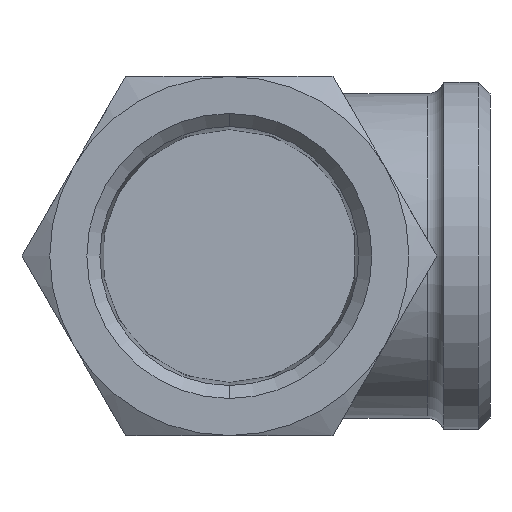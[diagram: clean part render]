
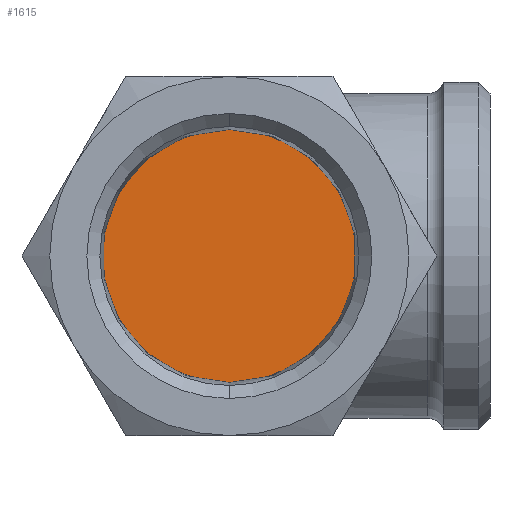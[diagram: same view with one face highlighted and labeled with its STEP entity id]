
A CAD part, left-side view. The second image highlights one B-rep face of the part: STEP entity #1615.
In plain terms, the highlighted planar face has unit normal (-1, 0, 0).
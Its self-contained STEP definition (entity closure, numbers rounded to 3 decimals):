
#13 = CARTESIAN_POINT ( 'NONE',  ( -81., 0., 21.85 ) ) ;
#98 = CARTESIAN_POINT ( 'NONE',  ( -81., 21.85, 0. ) ) ;
#409 = CARTESIAN_POINT ( 'NONE',  ( -81., 0., -21.85 ) ) ;
#563 = DIRECTION ( 'NONE',  ( 0., 0., 1. ) ) ;
#640 = CIRCLE ( 'NONE', #990, 21.85 ) ;
#689 = EDGE_CURVE ( 'NONE', #1437, #730, #747, .T. ) ;
#730 = VERTEX_POINT ( 'NONE', #409 ) ;
#747 = CIRCLE ( 'NONE', #2093, 21.85 ) ;
#846 = DIRECTION ( 'NONE',  ( -1., 0., 0. ) ) ;
#889 = EDGE_LOOP ( 'NONE', ( #1914, #1572 ) ) ;
#990 = AXIS2_PLACEMENT_3D ( 'NONE', #1093, #1457, #563 ) ;
#1031 = PLANE ( 'NONE',  #2110 ) ;
#1093 = CARTESIAN_POINT ( 'NONE',  ( -81., 0., 0. ) ) ;
#1437 = VERTEX_POINT ( 'NONE', #13 ) ;
#1457 = DIRECTION ( 'NONE',  ( -1., 0., 0. ) ) ;
#1509 = CARTESIAN_POINT ( 'NONE',  ( -81., 0., 0. ) ) ;
#1565 = FACE_OUTER_BOUND ( 'NONE', #889, .T. ) ;
#1572 = ORIENTED_EDGE ( 'NONE', *, *, #2335, .T. ) ;
#1615 = ADVANCED_FACE ( 'NONE', ( #1565 ), #1031, .T. ) ;
#1684 = DIRECTION ( 'NONE',  ( 0., 0., 1. ) ) ;
#1696 = DIRECTION ( 'NONE',  ( -1., 0., 0. ) ) ;
#1914 = ORIENTED_EDGE ( 'NONE', *, *, #689, .T. ) ;
#2093 = AXIS2_PLACEMENT_3D ( 'NONE', #1509, #1696, #1684 ) ;
#2110 = AXIS2_PLACEMENT_3D ( 'NONE', #98, #846, #2114 ) ;
#2114 = DIRECTION ( 'NONE',  ( 0., 0., 1. ) ) ;
#2335 = EDGE_CURVE ( 'NONE', #730, #1437, #640, .T. ) ;
